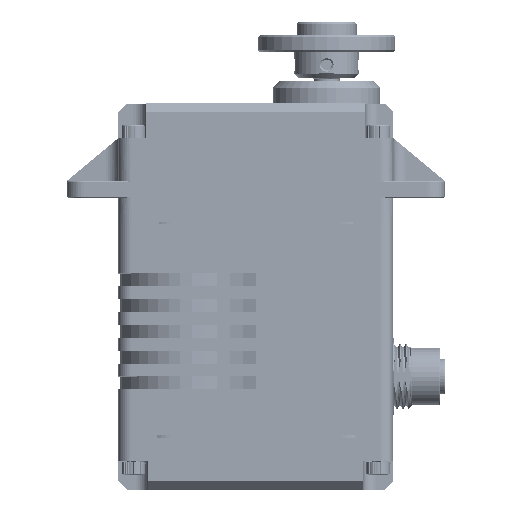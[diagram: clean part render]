
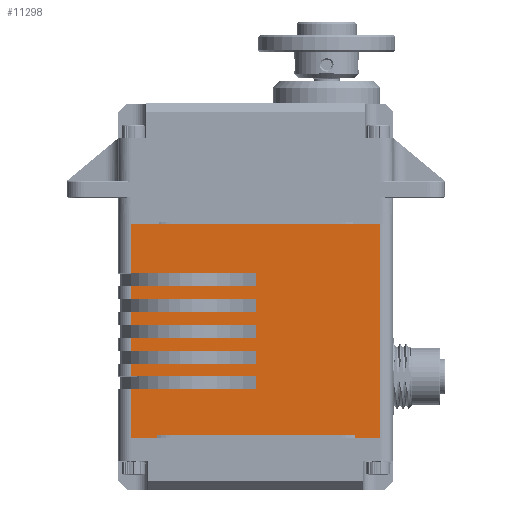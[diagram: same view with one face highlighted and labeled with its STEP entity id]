
A CAD part, top view. The second image highlights one B-rep face of the part: STEP entity #11298.
In plain terms, the highlighted planar face has unit normal (0, 0, 1).
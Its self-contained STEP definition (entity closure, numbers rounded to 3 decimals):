
#9213=DIRECTION('',(1.,0.,0.));
#9214=VECTOR('',#9213,5.889);
#9215=CARTESIAN_POINT('',(-29.,-49.8,16.5));
#9216=LINE('',#9215,#9214);
#9220=DIRECTION('',(0.,-1.,0.));
#9221=VECTOR('',#9220,11.3);
#9222=CARTESIAN_POINT('',(-29.,-38.5,16.5));
#9223=LINE('',#9222,#9221);
#9227=DIRECTION('',(1.,0.,0.));
#9228=VECTOR('',#9227,29.);
#9229=CARTESIAN_POINT('',(-29.,-38.5,16.5));
#9230=LINE('',#9229,#9228);
#9234=DIRECTION('',(0.,-1.,0.));
#9235=VECTOR('',#9234,3.);
#9236=CARTESIAN_POINT('',(0.,-35.5,16.5));
#9237=LINE('',#9236,#9235);
#9241=DIRECTION('',(1.,0.,0.));
#9242=VECTOR('',#9241,29.);
#9243=CARTESIAN_POINT('',(-29.,-35.5,16.5));
#9244=LINE('',#9243,#9242);
#9248=DIRECTION('',(0.,-1.,0.));
#9249=VECTOR('',#9248,3.);
#9250=CARTESIAN_POINT('',(-29.,-32.5,16.5));
#9251=LINE('',#9250,#9249);
#9255=DIRECTION('',(1.,0.,0.));
#9256=VECTOR('',#9255,29.);
#9257=CARTESIAN_POINT('',(-29.,-32.5,16.5));
#9258=LINE('',#9257,#9256);
#9262=DIRECTION('',(0.,-1.,0.));
#9263=VECTOR('',#9262,3.);
#9264=CARTESIAN_POINT('',(0.,-29.5,16.5));
#9265=LINE('',#9264,#9263);
#9269=DIRECTION('',(1.,0.,0.));
#9270=VECTOR('',#9269,29.);
#9271=CARTESIAN_POINT('',(-29.,-29.5,16.5));
#9272=LINE('',#9271,#9270);
#9276=DIRECTION('',(0.,-1.,0.));
#9277=VECTOR('',#9276,3.);
#9278=CARTESIAN_POINT('',(-29.,-26.5,16.5));
#9279=LINE('',#9278,#9277);
#9283=DIRECTION('',(1.,0.,0.));
#9284=VECTOR('',#9283,29.);
#9285=CARTESIAN_POINT('',(-29.,-26.5,16.5));
#9286=LINE('',#9285,#9284);
#9290=DIRECTION('',(0.,-1.,0.));
#9291=VECTOR('',#9290,3.);
#9292=CARTESIAN_POINT('',(0.,-23.5,16.5));
#9293=LINE('',#9292,#9291);
#9297=DIRECTION('',(1.,0.,0.));
#9298=VECTOR('',#9297,29.);
#9299=CARTESIAN_POINT('',(-29.,-23.5,16.5));
#9300=LINE('',#9299,#9298);
#9304=DIRECTION('',(0.,-1.,0.));
#9305=VECTOR('',#9304,3.);
#9306=CARTESIAN_POINT('',(-29.,-20.5,16.5));
#9307=LINE('',#9306,#9305);
#9311=DIRECTION('',(1.,0.,0.));
#9312=VECTOR('',#9311,29.);
#9313=CARTESIAN_POINT('',(-29.,-20.5,16.5));
#9314=LINE('',#9313,#9312);
#9318=DIRECTION('',(0.,-1.,0.));
#9319=VECTOR('',#9318,3.);
#9320=CARTESIAN_POINT('',(0.,-17.5,16.5));
#9321=LINE('',#9320,#9319);
#9325=DIRECTION('',(1.,0.,0.));
#9326=VECTOR('',#9325,29.);
#9327=CARTESIAN_POINT('',(-29.,-17.5,16.5));
#9328=LINE('',#9327,#9326);
#9332=DIRECTION('',(0.,-1.,0.));
#9333=VECTOR('',#9332,3.);
#9334=CARTESIAN_POINT('',(-29.,-14.5,16.5));
#9335=LINE('',#9334,#9333);
#9339=DIRECTION('',(1.,0.,0.));
#9340=VECTOR('',#9339,29.);
#9341=CARTESIAN_POINT('',(-29.,-14.5,16.5));
#9342=LINE('',#9341,#9340);
#9346=DIRECTION('',(0.,-1.,0.));
#9347=VECTOR('',#9346,3.);
#9348=CARTESIAN_POINT('',(0.,-11.5,16.5));
#9349=LINE('',#9348,#9347);
#9353=DIRECTION('',(1.,0.,0.));
#9354=VECTOR('',#9353,29.);
#9355=CARTESIAN_POINT('',(-29.,-11.5,16.5));
#9356=LINE('',#9355,#9354);
#9360=DIRECTION('',(0.,-1.,0.));
#9361=VECTOR('',#9360,11.5);
#9362=CARTESIAN_POINT('',(-29.,0.,16.5));
#9363=LINE('',#9362,#9361);
#9367=DIRECTION('',(1.,0.,0.));
#9368=VECTOR('',#9367,5.889);
#9369=CARTESIAN_POINT('',(23.111,-49.8,16.5));
#9370=LINE('',#9369,#9368);
#9374=DIRECTION('',(0.,1.,0.));
#9375=VECTOR('',#9374,0.6);
#9376=CARTESIAN_POINT('',(23.111,-49.8,16.5));
#9377=LINE('',#9376,#9375);
#9381=DIRECTION('',(1.,0.,0.));
#9382=VECTOR('',#9381,46.223);
#9383=CARTESIAN_POINT('',(-23.111,-49.2,16.5));
#9384=LINE('',#9383,#9382);
#9388=DIRECTION('',(0.,1.,0.));
#9389=VECTOR('',#9388,0.6);
#9390=CARTESIAN_POINT('',(-23.111,-49.8,16.5));
#9391=LINE('',#9390,#9389);
#9741=DIRECTION('',(1.,0.,0.));
#9742=VECTOR('',#9741,58.);
#9743=CARTESIAN_POINT('',(-29.,0.,16.5));
#9744=LINE('',#9743,#9742);
#9908=DIRECTION('',(0.,-1.,0.));
#9909=VECTOR('',#9908,49.8);
#9910=CARTESIAN_POINT('',(29.,0.,16.5));
#9911=LINE('',#9910,#9909);
#10311=CARTESIAN_POINT('',(-29.,0.,16.5));
#10312=VERTEX_POINT('',#10311);
#10313=CARTESIAN_POINT('',(29.,0.,16.5));
#10314=VERTEX_POINT('',#10313);
#10325=CARTESIAN_POINT('',(-23.111,-49.2,16.5));
#10326=CARTESIAN_POINT('',(23.111,-49.2,16.5));
#10327=VERTEX_POINT('',#10325);
#10328=VERTEX_POINT('',#10326);
#10389=CARTESIAN_POINT('',(-29.,-38.5,16.5));
#10390=VERTEX_POINT('',#10389);
#10391=CARTESIAN_POINT('',(-29.,-35.5,16.5));
#10392=VERTEX_POINT('',#10391);
#10393=CARTESIAN_POINT('',(0.,-38.5,16.5));
#10394=VERTEX_POINT('',#10393);
#10395=CARTESIAN_POINT('',(0.,-35.5,16.5));
#10396=VERTEX_POINT('',#10395);
#10425=CARTESIAN_POINT('',(0.,-32.5,16.5));
#10426=VERTEX_POINT('',#10425);
#10429=CARTESIAN_POINT('',(0.,-29.5,16.5));
#10430=VERTEX_POINT('',#10429);
#10445=CARTESIAN_POINT('',(-29.,-32.5,16.5));
#10446=VERTEX_POINT('',#10445);
#10447=CARTESIAN_POINT('',(-29.,-29.5,16.5));
#10448=VERTEX_POINT('',#10447);
#10457=CARTESIAN_POINT('',(0.,-26.5,16.5));
#10458=VERTEX_POINT('',#10457);
#10461=CARTESIAN_POINT('',(0.,-23.5,16.5));
#10462=VERTEX_POINT('',#10461);
#10471=CARTESIAN_POINT('',(-29.,-23.5,16.5));
#10472=VERTEX_POINT('',#10471);
#10479=CARTESIAN_POINT('',(-29.,-26.5,16.5));
#10480=VERTEX_POINT('',#10479);
#10489=CARTESIAN_POINT('',(0.,-20.5,16.5));
#10490=VERTEX_POINT('',#10489);
#10493=CARTESIAN_POINT('',(0.,-17.5,16.5));
#10494=VERTEX_POINT('',#10493);
#10503=CARTESIAN_POINT('',(-29.,-17.5,16.5));
#10504=VERTEX_POINT('',#10503);
#10511=CARTESIAN_POINT('',(-29.,-20.5,16.5));
#10512=VERTEX_POINT('',#10511);
#10521=CARTESIAN_POINT('',(0.,-14.5,16.5));
#10522=VERTEX_POINT('',#10521);
#10525=CARTESIAN_POINT('',(0.,-11.5,16.5));
#10526=VERTEX_POINT('',#10525);
#10535=CARTESIAN_POINT('',(-29.,-11.5,16.5));
#10536=VERTEX_POINT('',#10535);
#10543=CARTESIAN_POINT('',(-29.,-14.5,16.5));
#10544=VERTEX_POINT('',#10543);
#10571=CARTESIAN_POINT('',(-29.,-49.8,16.5));
#10572=VERTEX_POINT('',#10571);
#10573=CARTESIAN_POINT('',(-23.111,-49.8,16.5));
#10574=VERTEX_POINT('',#10573);
#10575=CARTESIAN_POINT('',(23.111,-49.8,16.5));
#10576=CARTESIAN_POINT('',(29.,-49.8,16.5));
#10577=VERTEX_POINT('',#10575);
#10578=VERTEX_POINT('',#10576);
#11249=CARTESIAN_POINT('',(-29.,0.,16.5));
#11250=DIRECTION('',(0.,0.,1.));
#11251=DIRECTION('',(1.,0.,0.));
#11252=AXIS2_PLACEMENT_3D('',#11249,#11250,#11251);
#11253=PLANE('',#11252);
#11254=ORIENTED_EDGE('',*,*,#10810,.F.);
#11255=ORIENTED_EDGE('',*,*,#11244,.F.);
#11257=ORIENTED_EDGE('',*,*,#11256,.T.);
#11259=ORIENTED_EDGE('',*,*,#11258,.F.);
#11261=ORIENTED_EDGE('',*,*,#11260,.F.);
#11262=ORIENTED_EDGE('',*,*,#11170,.F.);
#11263=ORIENTED_EDGE('',*,*,#10996,.T.);
#11264=ORIENTED_EDGE('',*,*,#11021,.F.);
#11265=ORIENTED_EDGE('',*,*,#11067,.F.);
#11266=ORIENTED_EDGE('',*,*,#11184,.F.);
#11267=ORIENTED_EDGE('',*,*,#10642,.T.);
#11268=ORIENTED_EDGE('',*,*,#10668,.F.);
#11269=ORIENTED_EDGE('',*,*,#10702,.F.);
#11270=ORIENTED_EDGE('',*,*,#11198,.F.);
#11272=ORIENTED_EDGE('',*,*,#11271,.T.);
#11274=ORIENTED_EDGE('',*,*,#11273,.F.);
#11276=ORIENTED_EDGE('',*,*,#11275,.F.);
#11277=ORIENTED_EDGE('',*,*,#11227,.F.);
#11279=ORIENTED_EDGE('',*,*,#11278,.T.);
#11281=ORIENTED_EDGE('',*,*,#11280,.F.);
#11283=ORIENTED_EDGE('',*,*,#11282,.F.);
#11284=ORIENTED_EDGE('',*,*,#11215,.F.);
#11286=ORIENTED_EDGE('',*,*,#11285,.T.);
#11288=ORIENTED_EDGE('',*,*,#11287,.T.);
#11289=ORIENTED_EDGE('',*,*,#10840,.F.);
#11291=ORIENTED_EDGE('',*,*,#11290,.T.);
#11293=ORIENTED_EDGE('',*,*,#11292,.F.);
#11295=ORIENTED_EDGE('',*,*,#11294,.F.);
#11296=EDGE_LOOP('',(#11254,#11255,#11257,#11259,#11261,#11262,#11263,#11264,
#11265,#11266,#11267,#11268,#11269,#11270,#11272,#11274,#11276,#11277,#11279,
#11281,#11283,#11284,#11286,#11288,#11289,#11291,#11293,#11295));
#11297=FACE_OUTER_BOUND('',#11296,.F.);
#11298=ADVANCED_FACE('',(#11297),#11253,.T.);
#10642=EDGE_CURVE('',#10480,#10458,#9286,.T.);
#10668=EDGE_CURVE('',#10462,#10458,#9293,.T.);
#10702=EDGE_CURVE('',#10472,#10462,#9300,.T.);
#10810=EDGE_CURVE('',#10572,#10574,#9216,.T.);
#10840=EDGE_CURVE('',#10577,#10578,#9370,.T.);
#10996=EDGE_CURVE('',#10446,#10426,#9258,.T.);
#11021=EDGE_CURVE('',#10430,#10426,#9265,.T.);
#11067=EDGE_CURVE('',#10448,#10430,#9272,.T.);
#11170=EDGE_CURVE('',#10446,#10392,#9251,.T.);
#11184=EDGE_CURVE('',#10480,#10448,#9279,.T.);
#11198=EDGE_CURVE('',#10512,#10472,#9307,.T.);
#11215=EDGE_CURVE('',#10312,#10536,#9363,.T.);
#11227=EDGE_CURVE('',#10544,#10504,#9335,.T.);
#11244=EDGE_CURVE('',#10390,#10572,#9223,.T.);
#11256=EDGE_CURVE('',#10390,#10394,#9230,.T.);
#11258=EDGE_CURVE('',#10396,#10394,#9237,.T.);
#11260=EDGE_CURVE('',#10392,#10396,#9244,.T.);
#11271=EDGE_CURVE('',#10512,#10490,#9314,.T.);
#11273=EDGE_CURVE('',#10494,#10490,#9321,.T.);
#11275=EDGE_CURVE('',#10504,#10494,#9328,.T.);
#11278=EDGE_CURVE('',#10544,#10522,#9342,.T.);
#11280=EDGE_CURVE('',#10526,#10522,#9349,.T.);
#11282=EDGE_CURVE('',#10536,#10526,#9356,.T.);
#11285=EDGE_CURVE('',#10312,#10314,#9744,.T.);
#11287=EDGE_CURVE('',#10314,#10578,#9911,.T.);
#11290=EDGE_CURVE('',#10577,#10328,#9377,.T.);
#11292=EDGE_CURVE('',#10327,#10328,#9384,.T.);
#11294=EDGE_CURVE('',#10574,#10327,#9391,.T.);
